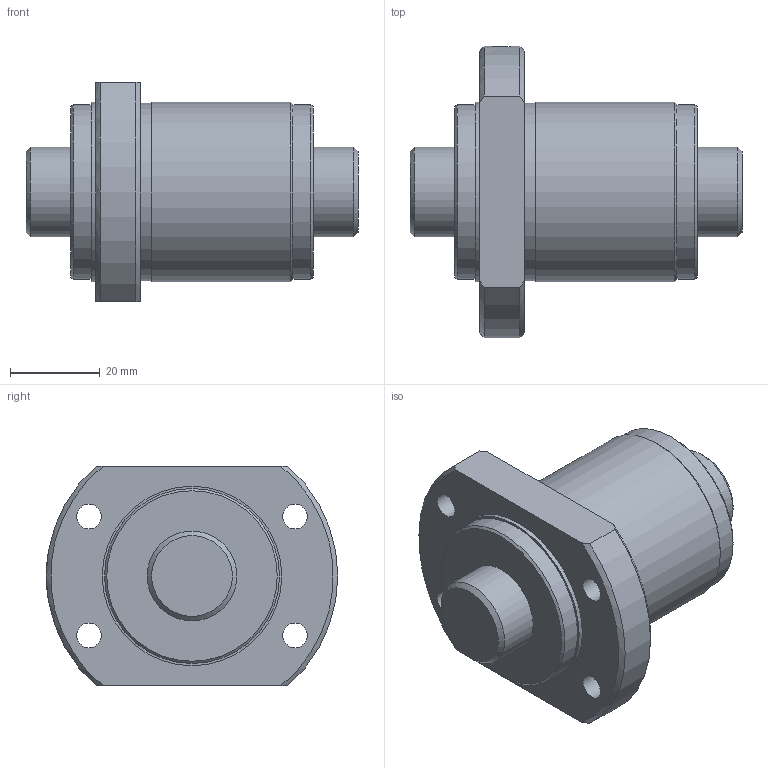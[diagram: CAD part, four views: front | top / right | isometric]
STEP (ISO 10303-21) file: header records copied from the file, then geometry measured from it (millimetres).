
FILE_DESCRIPTION(/* description */ ('STEP AP203'),/* implementation_level */ '2;1');
FILE_NAME(/* name */ 'SBK2020-3.6RRG0+74LC0(0000)',/* time_stamp */ '2024-05-28T11:19:35+02:00',/* author */ ('License CC BY-ND 4.0'),/* organization */ ('CADENAS'),/* preprocessor_version */ 'ST-DEVELOPER v19.3',/* originating_system */ 'PARTsolutions',/* authorisation */ ' ');
FILE_SCHEMA (('CONFIG_CONTROL_DESIGN'));
Length unit declared in the file: millimetre
Products named in the file (3): SBK2020-3.6RRG0+74LC0(0000); NRR000SBK 2020-3.60Shaft; NRR000SBK 2020-3.6Nut
Assembly tree (2 placements, depth 2):
  SBK2020-3.6RRG0+74LC0(0000)
    NRR000SBK 2020-3.60Shaft
    NRR000SBK 2020-3.6Nut
Bounding box: 74 x 65 x 49 mm (x, y, z)
Volume: 87992.8 mm3; surface area: 21664.1 mm2
Topology: 2 solids, 2 shells, 35 faces, 74 edges, 47 vertices
Faces by surface type: cylinder 14, cone 11, plane 10
Full cylindrical faces by diameter (mm): 4.917 x1, 5.5 x4, 20 x2, 39 x2, 39.6 x1, 40 x2
Entity records: 950 total; most frequent: CARTESIAN_POINT 171, DIRECTION 156, ORIENTED_EDGE 106, AXIS2_PLACEMENT_3D 74, FACE_BOUND 69, EDGE_LOOP 68, EDGE_CURVE 53, VERTEX_POINT 46
